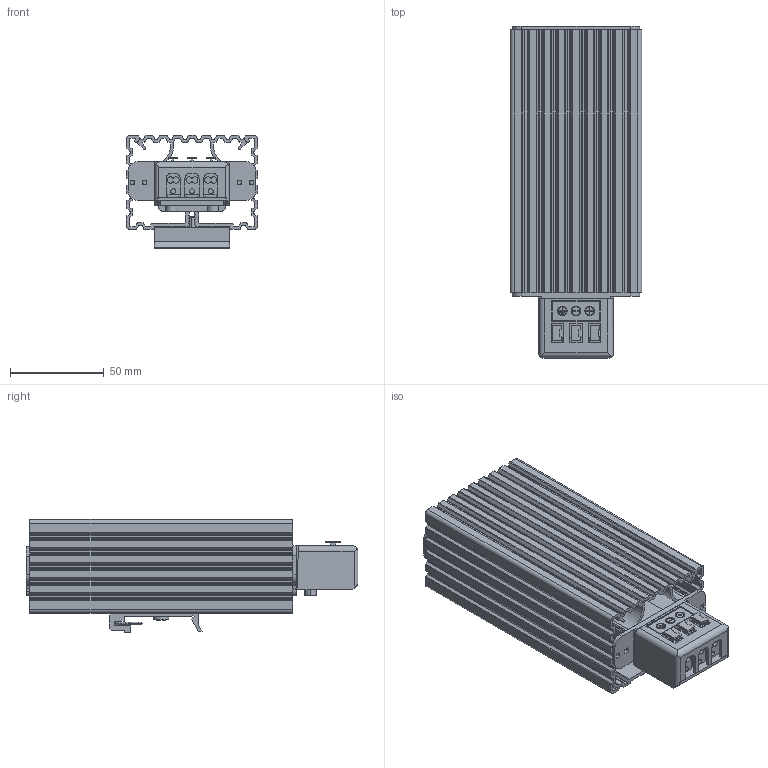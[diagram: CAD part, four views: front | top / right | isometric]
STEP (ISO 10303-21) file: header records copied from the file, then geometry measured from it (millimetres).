
FILE_DESCRIPTION (( 'STEP AP203' ), '1' );
FILE_NAME ('EHG060_V1.step', '2012-12-20T10:16:08', ( '' ), ( '' ), 'SwSTEP 2.0', 'SolidWorks 2011', '' );
FILE_SCHEMA (( 'CONFIG_CONTROL_DESIGN' ));
Length unit declared in the file: millimetre
Products named in the file (37): Imported14; Imported29; Imported17; Imported26; Imported22; Imported6; Imported5; Imported31; Imported7; Imported27; Imported33; Imported1; Imported; EHG060_V1; Imported28; Imported11; Imported16; Imported24; Imported12; Imported15; Imported10; Imported8; Imported32; Imported21; Imported35; Imported4; Imported20; Imported3; Imported30; Imported25; Imported13; Imported9; Imported18; Imported34; Imported23; Imported19; Imported2
Assembly tree (36 placements, depth 2):
  EHG060_V1
    Imported6
    Imported3
    Imported28
    Imported21
    Imported31
    Imported25
    Imported
    Imported1
    Imported24
    Imported8
    Imported22
    Imported27
    Imported7
    Imported20
    Imported9
    Imported18
    Imported13
    Imported15
    Imported29
    Imported35
    Imported4
    Imported34
    Imported19
    Imported10
    Imported32
    Imported17
    Imported23
    Imported16
    Imported33
    Imported14
    Imported5
    Imported30
    Imported2
    Imported12
    Imported11
    Imported26
Bounding box: 70 x 176.75 x 60.2 mm (x, y, z)
Volume: 196751.1 mm3; surface area: 236939.5 mm2
Topology: 35 solids, 41 shells, 1771 faces, 4863 edges, 3206 vertices
Faces by surface type: plane 1147, cylinder 501, bspline 98, cone 25
Entity records: 82353 total; most frequent: CARTESIAN_POINT 33148, ORIENTED_EDGE 9710, DIRECTION 9069, EDGE_CURVE 4863, VECTOR 3467, LINE 3467, VERTEX_POINT 3206, AXIS2_PLACEMENT_3D 2801
